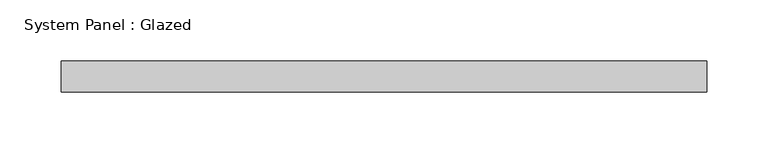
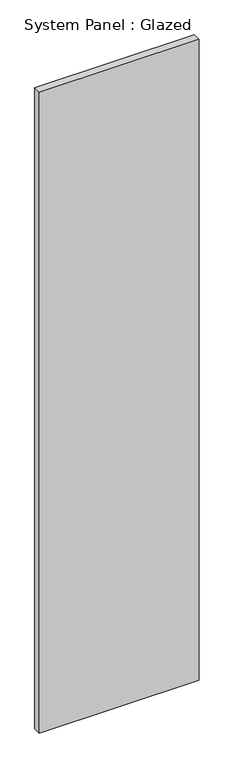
"""IFC4 building model written with IfcOpenShell, lengths in millimetres: plate geometry, System Panel : Glazed."""

import ifcopenshell
import ifcopenshell.guid

model = None  # the IFC model being written
_history = None  # IfcOwnerHistory: only IFC2X3 demands one
_inside = {}  # id of a spatial element -> (the spatial element, [elements in it])
_under = {}  # id of a project, library or spatial element -> (it, [spatial elements below it])
_declared = {}  # id of a project -> (the project, [libraries it declares])
_typed = {}  # id of a type object -> (the type object, [elements of that type])
_made_of = {}  # id of a material, layer set ... -> (it, [elements and type objects made of it])


def new_model(schema):
    """Start an empty IFC model of exactly this schema.

    Asked for "IFC4X3", IfcOpenShell would pick the latest addendum, in which some entities
    have other attributes; the version numbers below select the first issue.
    IFC2X3 requires an IfcOwnerHistory on every rooted entity: one is made here for all.
    """
    global model, _history
    if schema == "IFC4X3":
        model = ifcopenshell.file(schema_version=(4, 3, 0, 0))
    else:
        model = ifcopenshell.file(schema=schema)
    _inside.clear()
    _under.clear()
    _declared.clear()
    _typed.clear()
    _made_of.clear()
    _history = None
    if model.schema == "IFC2X3":
        org = make("IfcOrganization", Name="unknown")
        user = make(
            "IfcPersonAndOrganization",
            ThePerson=make("IfcPerson", FamilyName="unknown"),
            TheOrganization=org,
        )
        app = make(
            "IfcApplication",
            ApplicationDeveloper=org,
            Version="unknown",
            ApplicationFullName="unknown",
            ApplicationIdentifier="unknown",
        )
        _history = make(
            "IfcOwnerHistory",
            OwningUser=user,
            OwningApplication=app,
            ChangeAction="ADDED",
            CreationDate=0,
        )
    return model


def make(cls, **values):
    """One entity of the class cls with the attributes given. An attribute that is None is left unset."""
    return model.create_entity(
        cls, **{name: value for name, value in values.items() if value is not None}
    )


def rooted(cls, **values):
    """An entity with a GlobalId (a new one), such as an element, a storey or a relation."""
    return make(cls, GlobalId=ifcopenshell.guid.new(), OwnerHistory=_history, **values)


def si_unit(unit_type, name, prefix=None):
    """IfcSIUnit, for example si_unit("LENGTHUNIT", "METRE", prefix="MILLI")."""
    return make("IfcSIUnit", UnitType=unit_type, Prefix=prefix, Name=name)


def assignment(units):
    """IfcUnitAssignment: the units of a project."""
    return None if units is None else make("IfcUnitAssignment", Units=units)


def point(xyz):
    """IfcCartesianPoint."""
    return None if xyz is None else make("IfcCartesianPoint", Coordinates=xyz)


def direction(xyz):
    """IfcDirection."""
    return None if xyz is None else make("IfcDirection", DirectionRatios=xyz)


def frame(location, z_axis=None, x_axis=None):
    """IfcAxis2Placement3D, a coordinate frame: its origin and axes. An axis left out is left unset."""
    return make(
        "IfcAxis2Placement3D",
        Location=point(location),
        Axis=direction(z_axis),
        RefDirection=direction(x_axis),
    )


def origin():
    """The frame at (0, 0, 0) with its axes left unset."""
    return frame((0.0, 0.0, 0.0))


def origin_with_axes():
    """The frame at (0, 0, 0) with the z axis (0, 0, 1) and the x axis (1, 0, 0) written out."""
    return frame((0.0, 0.0, 0.0), z_axis=(0.0, 0.0, 1.0), x_axis=(1.0, 0.0, 0.0))


def place(relative_to, where):
    """IfcLocalPlacement: puts the frame where relative to a parent placement (None: the world)."""
    return make(
        "IfcLocalPlacement", PlacementRelTo=relative_to, RelativePlacement=where
    )


def context(
    kind, dimensions, precision=None, world=None, true_north=None, identifier=None
):
    """IfcGeometricRepresentationContext, for example the 3D "Model" context."""
    return make(
        "IfcGeometricRepresentationContext",
        ContextIdentifier=identifier,
        ContextType=kind,
        CoordinateSpaceDimension=dimensions,
        Precision=precision,
        WorldCoordinateSystem=world,
        TrueNorth=true_north,
    )


def project(units=None, contexts=None):
    """IfcProject with its units and contexts."""
    return rooted(
        "IfcProject",
        Name="project",
        RepresentationContexts=contexts,
        UnitsInContext=assignment(units),
    )


def spatial(cls, under=None, at=None, **own):
    """A site, building, storey or space (cls), placed at a placement, below another one or the project."""
    s = rooted(cls, ObjectPlacement=at, **own)
    if under is not None:
        _under.setdefault(under.id(), (under, []))[1].append(s)
    return s


def polyline(points):
    """IfcPolyline through the points."""
    return make("IfcPolyline", Points=[point(p) for p in points])


def outline(outer, holes=None, kind="AREA"):
    """IfcArbitraryClosedProfileDef: a profile drawn as a closed curve; with holes, ...WithVoids."""
    if holes is None:
        return make("IfcArbitraryClosedProfileDef", ProfileType=kind, OuterCurve=outer)
    return make(
        "IfcArbitraryProfileDefWithVoids",
        ProfileType=kind,
        OuterCurve=outer,
        InnerCurves=holes,
    )


def extrude(swept, where, along, depth):
    """IfcExtrudedAreaSolid: the profile swept, set in the frame where, extruded along a direction by depth."""
    return make(
        "IfcExtrudedAreaSolid",
        SweptArea=swept,
        Position=where,
        ExtrudedDirection=direction(along),
        Depth=depth,
    )


def shape(context_of_items, identifier, shape_type, items):
    """IfcShapeRepresentation: the items that make up one representation, for example the "Body"."""
    return make(
        "IfcShapeRepresentation",
        ContextOfItems=context_of_items,
        RepresentationIdentifier=identifier,
        RepresentationType=shape_type,
        Items=items,
    )


def source(mapping_origin, context_of_items, identifier, shape_type, items):
    """IfcRepresentationMap: a shape defined once, which mapped items show again and again."""
    return make(
        "IfcRepresentationMap",
        MappingOrigin=mapping_origin,
        MappedRepresentation=shape(context_of_items, identifier, shape_type, items),
    )


def transform(
    local_origin,
    x_axis=None,
    y_axis=None,
    z_axis=None,
    scale=None,
    scale2=None,
    scale3=None,
    uniform=True,
):
    """IfcCartesianTransformationOperator3D, or its non-uniform kind. x_axis, y_axis, z_axis: its Axis1, 2, 3."""
    if uniform:
        return make(
            "IfcCartesianTransformationOperator3D",
            Axis1=direction(x_axis),
            Axis2=direction(y_axis),
            LocalOrigin=point(local_origin),
            Scale=scale,
            Axis3=direction(z_axis),
        )
    return make(
        "IfcCartesianTransformationOperator3DnonUniform",
        Axis1=direction(x_axis),
        Axis2=direction(y_axis),
        LocalOrigin=point(local_origin),
        Scale=scale,
        Axis3=direction(z_axis),
        Scale2=scale2,
        Scale3=scale3,
    )


def mapped(mapping_source, mapping_target):
    """IfcMappedItem: shows the shape of a source again, moved by a transform."""
    return make(
        "IfcMappedItem", MappingSource=mapping_source, MappingTarget=mapping_target
    )


def made_of(thing, what):
    """Note that an element or type object is made of a material, layer set ...; save() writes the relation."""
    if what is not None:
        _made_of.setdefault(what.id(), (what, []))[1].append(thing)
    return thing


def element(
    cls,
    number,
    at=None,
    inside=None,
    cuts=None,
    type_object=None,
    material=None,
    context=None,
    identifier="Body",
    shape_type=None,
    held_by="IfcProductDefinitionShape",
    body=None,
    shapes=None,
    **own,
):
    """One element of the class cls, such as IfcWall. Its Tag is "e" and its number.

    at: its placement. inside: the storey or other place that contains it. cuts: it is an
    opening in that element (IfcRelVoidsElement). A single representation is given by context,
    identifier, shape_type and body (its items); several are given by shapes. held_by: the class
    of the entity that holds the representations. save() writes the other relations.
    """
    e = rooted(cls, Tag="e%d" % number, ObjectPlacement=at, **own)
    if body is not None:
        shapes = [shape(context, identifier, shape_type, body)]
    if shapes is not None:
        e.Representation = make(held_by, Representations=shapes)
    if inside is not None:
        _inside.setdefault(inside.id(), (inside, []))[1].append(e)
    if cuts is not None:
        rooted(
            "IfcRelVoidsElement", RelatingBuildingElement=cuts, RelatedOpeningElement=e
        )
    if type_object is not None:
        _typed.setdefault(type_object.id(), (type_object, []))[1].append(e)
    return made_of(e, material)


def aggregate(whole, parts):
    """IfcRelAggregates: a whole, such as a stair, and the parts it consists of."""
    return rooted("IfcRelAggregates", RelatingObject=whole, RelatedObjects=parts)


def save(model, path):
    """Write the relations noted so far, then the file.

    IfcRelAggregates (storeys below a building ...), IfcRelContainedInSpatialStructure (elements
    in a storey), IfcRelDefinesByType, IfcRelAssociatesMaterial and IfcRelDeclares: one each for
    every whole, place, type object, material and project.
    """
    for whole, parts in _under.values():
        aggregate(whole, parts)
    for where, things in _inside.values():
        rooted(
            "IfcRelContainedInSpatialStructure",
            RelatedElements=things,
            RelatingStructure=where,
        )
    for kind, things in _typed.values():
        rooted("IfcRelDefinesByType", RelatedObjects=things, RelatingType=kind)
    for what, things in _made_of.values():
        rooted("IfcRelAssociatesMaterial", RelatedObjects=things, RelatingMaterial=what)
    for by, libraries in _declared.values():
        rooted("IfcRelDeclares", RelatingContext=by, RelatedDefinitions=libraries)
    model.write(path)


def system_panel_glazed_a4bb0f7f(model_context):
    return source(origin(), model_context, "Body", "SweptSolid", [
        extrude(outline(polyline([(262.5000001, -49.5), (-262.5000001, -49.5), (-262.5000001, -24.5), (262.5000001, -24.5), (262.5000001, -49.5)])), origin_with_axes(), (0.0, 0.0, 1.0), 2225.0),
    ])


if __name__ == "__main__":
    model = new_model("IFC4")
    model_context = context("Model", 3, world=origin())
    ifc_project = project(units=[si_unit("LENGTHUNIT", "METRE", prefix="MILLI")], contexts=[model_context])
    site = spatial("IfcSite", under=ifc_project)
    building = spatial("IfcBuilding", under=site)
    placement = place(None, origin())
    system_panel_glazed_shape = system_panel_glazed_a4bb0f7f(model_context)
    element("IfcPlate", 1, ObjectType="System Panel : Glazed", at=placement, inside=building, context=model_context, shape_type="MappedRepresentation", body=[
        mapped(system_panel_glazed_shape, transform((0.0, 0.0, 0.0), x_axis=(1.0, 0.0, 0.0), y_axis=(0.0, 1.0, 0.0), z_axis=(0.0, 0.0, 1.0))),
    ])
    save(model, "model.ifc")
